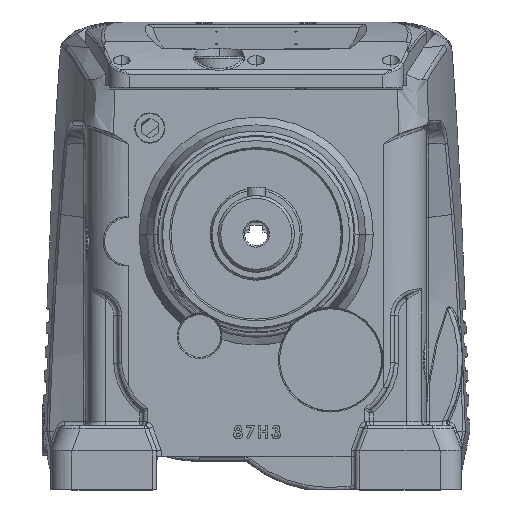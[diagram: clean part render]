
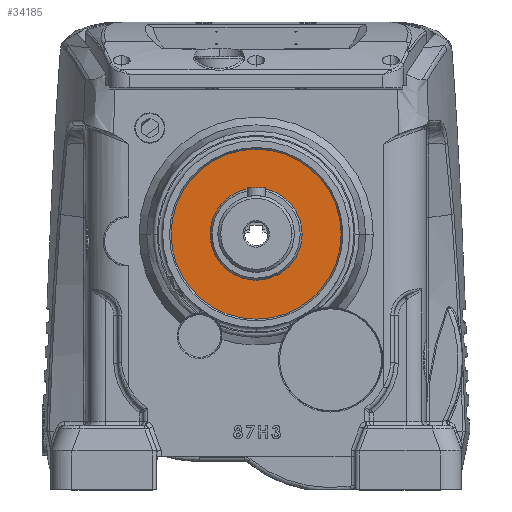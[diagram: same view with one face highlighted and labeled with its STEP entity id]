
A CAD part, top view. The second image highlights one B-rep face of the part: STEP entity #34185.
In plain terms, the highlighted planar face has unit normal (0, 0, 1).
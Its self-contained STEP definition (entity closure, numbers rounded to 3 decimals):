
#6483 = VERTEX_POINT ( 'NONE', #9031 ) ;
#6484 = VERTEX_POINT ( 'NONE', #9032 ) ;
#6485 = VERTEX_POINT ( 'NONE', #9033 ) ;
#6486 = VERTEX_POINT ( 'NONE', #9034 ) ;
#9031 = CARTESIAN_POINT ( 'NONE',  ( -60., 160., 48.5 ) ) ;
#9032 = CARTESIAN_POINT ( 'NONE',  ( 60., 160., 48.5 ) ) ;
#9033 = CARTESIAN_POINT ( 'NONE',  ( 32.5, 160., 48.5 ) ) ;
#9034 = CARTESIAN_POINT ( 'NONE',  ( -32.5, 160., 48.5 ) ) ;
#23226 = FACE_BOUND ( 'NONE', #36820, .T. ) ;
#23227 = FACE_OUTER_BOUND ( 'NONE', #36821, .T. ) ;
#26012 = AXIS2_PLACEMENT_3D ( 'NONE', #29905, #29907, #29909 ) ;
#26202 = CIRCLE ( 'NONE', #26216, 60. ) ;
#26216 = AXIS2_PLACEMENT_3D ( 'NONE', #30287, #30288, #30289 ) ;
#26218 = CIRCLE ( 'NONE', #26233, 60. ) ;
#26220 = CIRCLE ( 'NONE', #26224, 32.5 ) ;
#26224 = AXIS2_PLACEMENT_3D ( 'NONE', #30292, #30293, #30294 ) ;
#26227 = CIRCLE ( 'NONE', #26229, 32.5 ) ;
#26229 = AXIS2_PLACEMENT_3D ( 'NONE', #30295, #30296, #30297 ) ;
#26233 = AXIS2_PLACEMENT_3D ( 'NONE', #30298, #30299, #30300 ) ;
#29903 = PLANE ( 'NONE',  #26012 ) ;
#29905 = CARTESIAN_POINT ( 'NONE',  ( 0., 220., 48.5 ) ) ;
#29907 = DIRECTION ( 'NONE',  ( 0., 0., -1. ) ) ;
#29909 = DIRECTION ( 'NONE',  ( -1., 0., 0. ) ) ;
#30287 = CARTESIAN_POINT ( 'NONE',  ( 0., 160., 48.5 ) ) ;
#30288 = DIRECTION ( 'NONE',  ( 0., 0., 1. ) ) ;
#30289 = DIRECTION ( 'NONE',  ( 1., 0., 0. ) ) ;
#30292 = CARTESIAN_POINT ( 'NONE',  ( 0., 160., 48.5 ) ) ;
#30293 = DIRECTION ( 'NONE',  ( 0., 0., 1. ) ) ;
#30294 = DIRECTION ( 'NONE',  ( 1., 0., 0. ) ) ;
#30295 = CARTESIAN_POINT ( 'NONE',  ( 0., 160., 48.5 ) ) ;
#30296 = DIRECTION ( 'NONE',  ( 0., 0., 1. ) ) ;
#30297 = DIRECTION ( 'NONE',  ( 1., 0., 0. ) ) ;
#30298 = CARTESIAN_POINT ( 'NONE',  ( 0., 160., 48.5 ) ) ;
#30299 = DIRECTION ( 'NONE',  ( 0., 0., 1. ) ) ;
#30300 = DIRECTION ( 'NONE',  ( 1., 0., 0. ) ) ;
#34185 = ADVANCED_FACE ( 'NONE', ( #23226, #23227 ), #29903, .F. ) ;
#34249 = EDGE_CURVE ( 'NONE', #6484, #6483, #26202, .T. ) ;
#34251 = EDGE_CURVE ( 'NONE', #6486, #6485, #26220, .T. ) ;
#34252 = EDGE_CURVE ( 'NONE', #6485, #6486, #26227, .T. ) ;
#34253 = EDGE_CURVE ( 'NONE', #6483, #6484, #26218, .T. ) ;
#36820 = EDGE_LOOP ( 'NONE', ( #37268, #37272 ) ) ;
#36821 = EDGE_LOOP ( 'NONE', ( #37276, #37274 ) ) ;
#37268 = ORIENTED_EDGE ( 'NONE', *, *, #34252, .F. ) ;
#37272 = ORIENTED_EDGE ( 'NONE', *, *, #34251, .F. ) ;
#37274 = ORIENTED_EDGE ( 'NONE', *, *, #34253, .T. ) ;
#37276 = ORIENTED_EDGE ( 'NONE', *, *, #34249, .T. ) ;
